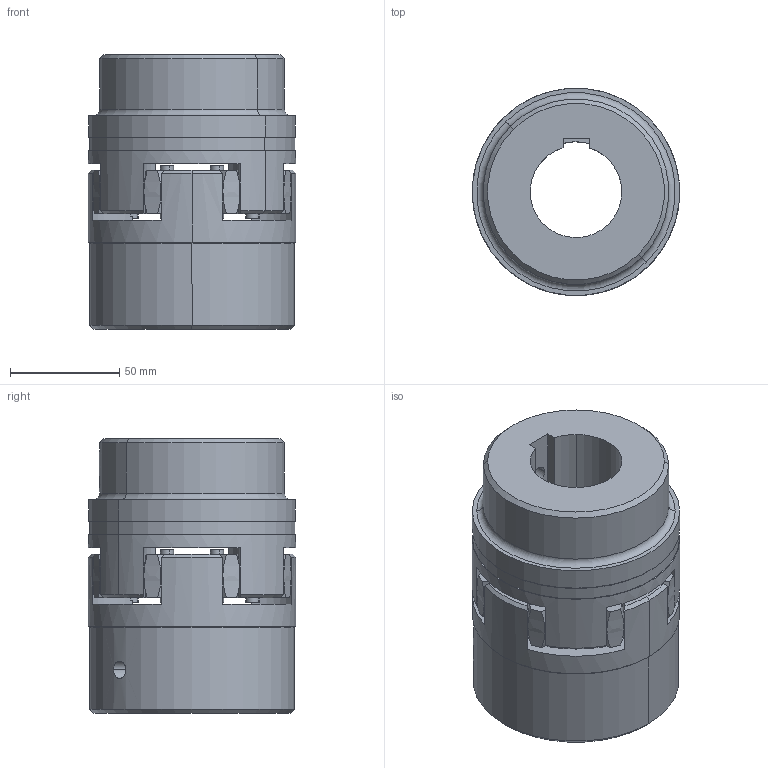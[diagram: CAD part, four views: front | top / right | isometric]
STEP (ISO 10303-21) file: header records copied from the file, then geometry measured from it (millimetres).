
FILE_DESCRIPTION (( 'STEP AP214' ), '1' );
FILE_NAME ('Sprzêg³o Rotex 42-55.STEP', '2026-06-01T07:32:44', ( '' ), ( '' ), 'SwSTEP 2.0', 'SolidWorks 2022', '' );
FILE_SCHEMA (( 'AUTOMOTIVE_DESIGN' ));
Length unit declared in the file: millimetre
Products named in the file (4): Rotex 42.stp; £¹cznik Rotex 42.stp; 020423105500_S214.stp; Sprz璕這 Rotex 42-55
Assembly tree (3 placements, depth 2):
  Sprz璕這 Rotex 42-55
    020423105500_S214.stp
    £¹cznik Rotex 42.stp
    Rotex 42.stp
Bounding box: 95 x 95 x 126 mm (x, y, z)
Volume: 574816.2 mm3; surface area: 97497.1 mm2
Topology: 3 solids, 3 shells, 155 faces, 404 edges, 266 vertices
Faces by surface type: cylinder 66, plane 39, bspline 32, cone 14, torus 4
Entity records: 7432 total; most frequent: CARTESIAN_POINT 3573, ORIENTED_EDGE 808, DIRECTION 752, EDGE_CURVE 404, AXIS2_PLACEMENT_3D 327, VERTEX_POINT 266, CIRCLE 198, EDGE_LOOP 176
